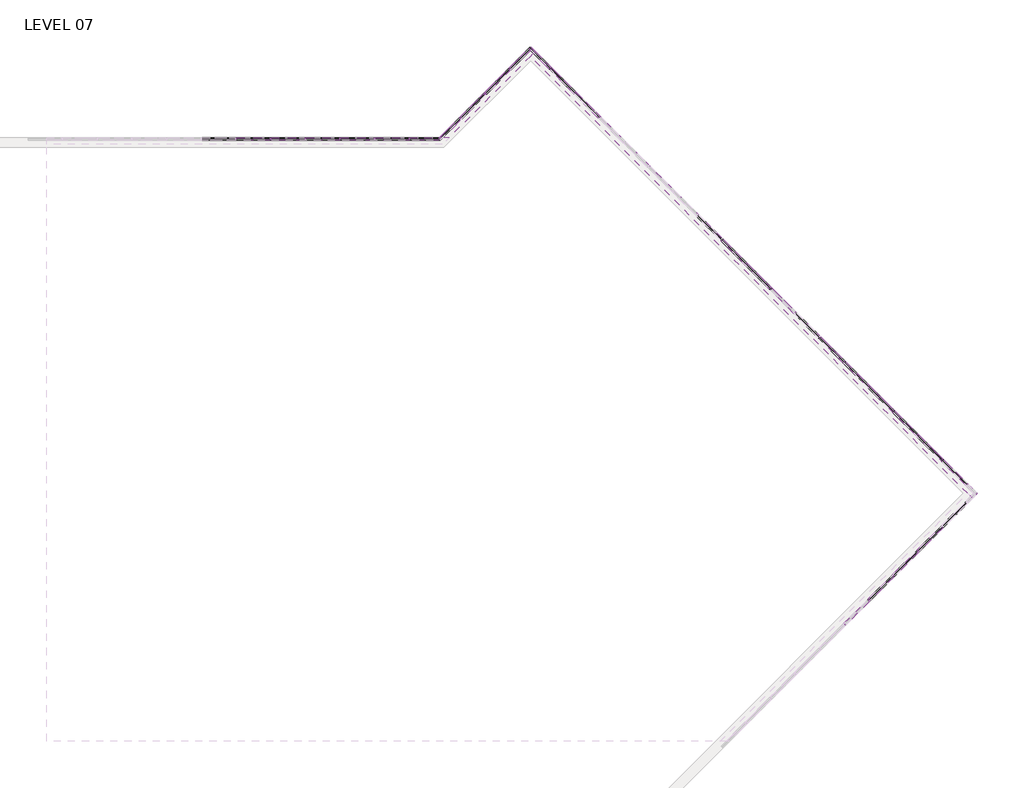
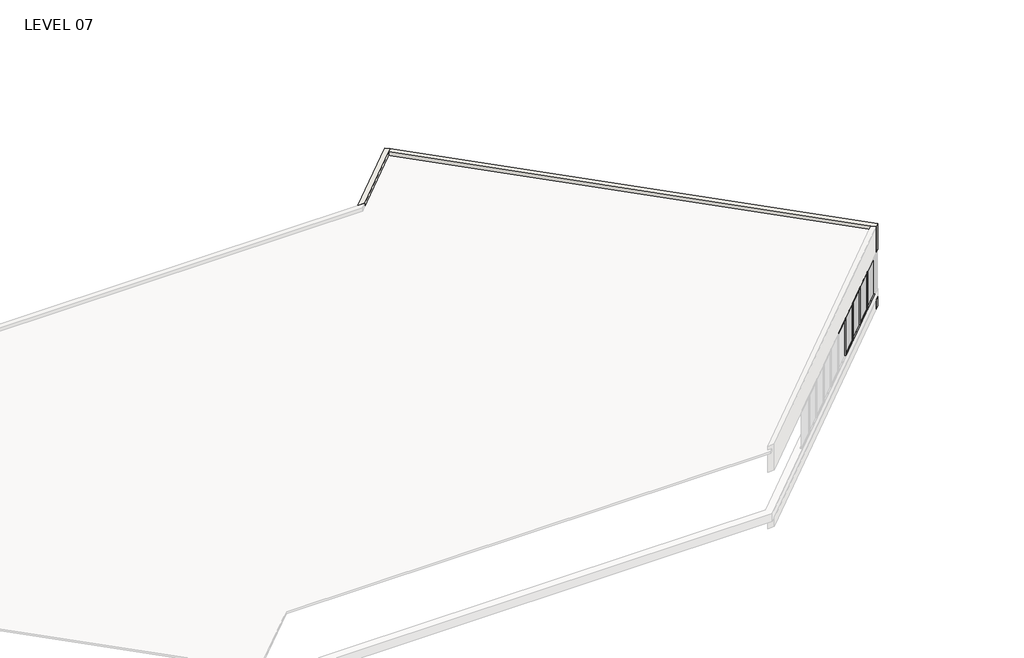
# One storey, part 16 of 18: 80 members, 24 plates, 4 walls.
"""IFC4 building model written with IfcOpenShell, lengths in millimetres."""

from ifc_helpers import new_model, si_unit, origin, place, context, project, spatial, faceted_brep, transform, mapped, element, save
from components import member_5247f267, member_e44af9ab, member_800970d4, member_c23f844a, member_45eb7f2e, member_ed9c17d6, member_53409b32, member_43bac76b, member_0b71a88d, plate_67294edd, plate_048e4634, plate_9c66726c, plate_e0fd5134, plate_62af1d3c, plate_903242d9, plate_0d1907f3, plate_15429445

model = new_model("IFC4")

# Units and contexts
model_context = context("Model", 3, world=origin())
ifc_project = project(units=[si_unit("LENGTHUNIT", "METRE", prefix="MILLI")], contexts=[model_context])

# Site, building, storey
site = spatial("IfcSite", under=ifc_project)
building = spatial("IfcBuilding", under=site)
storey = spatial("IfcBuildingStorey", under=building, Name="LEVEL 07", Elevation=23368.0)

# Members
placement = place(None, origin())
member_shape = member_5247f267(model_context)
element("IfcMember", 1, ObjectType="Rectangular Mullion : 2\" x 4.5\" rectangular", at=placement, inside=storey, context=model_context, shape_type="MappedRepresentation", body=[
    mapped(member_shape, transform((39706.55, 120127.9523049, 23368.0), x_axis=(0.0, 0.0, -1.0), y_axis=(0.0, 1.0, 0.0), z_axis=(1.0, 0.0, 0.0))),
])
element("IfcMember", 2, ObjectType="Rectangular Mullion : 2\" x 4.5\" rectangular", at=placement, inside=storey, context=model_context, shape_type="MappedRepresentation", body=[
    mapped(member_shape, transform((38182.55, 120127.9523049, 23368.0), x_axis=(0.0, 0.0, -1.0), y_axis=(0.0, 1.0, 0.0), z_axis=(1.0, 0.0, 0.0))),
])
element("IfcMember", 3, ObjectType="Rectangular Mullion : 2\" x 4.5\" rectangular", at=placement, inside=storey, context=model_context, shape_type="MappedRepresentation", body=[
    mapped(member_shape, transform((36658.55, 120127.9523049, 23368.0), x_axis=(0.0, 0.0, -1.0), y_axis=(0.0, 1.0, 0.0), z_axis=(1.0, 0.0, 0.0))),
])
element("IfcMember", 4, ObjectType="Rectangular Mullion : 2\" x 4.5\" rectangular", at=placement, inside=storey, context=model_context, shape_type="MappedRepresentation", body=[
    mapped(member_shape, transform((35134.55, 120127.9523049, 23368.0), x_axis=(0.0, 0.0, -1.0), y_axis=(0.0, 1.0, 0.0), z_axis=(1.0, 0.0, 0.0))),
])
element("IfcMember", 5, ObjectType="Rectangular Mullion : 2\" x 4.5\" rectangular", at=placement, inside=storey, context=model_context, shape_type="MappedRepresentation", body=[
    mapped(member_shape, transform((32086.55, 120127.9523049, 23368.0), x_axis=(0.0, 0.0, -1.0), y_axis=(0.0, 1.0, 0.0), z_axis=(1.0, 0.0, 0.0))),
])
element("IfcMember", 6, ObjectType="Rectangular Mullion : 2\" x 4.5\" rectangular", at=placement, inside=storey, context=model_context, shape_type="MappedRepresentation", body=[
    mapped(member_shape, transform((33610.55, 120127.9523049, 23368.0), x_axis=(0.0, 0.0, -1.0), y_axis=(0.0, 1.0, 0.0), z_axis=(1.0, 0.0, 0.0))),
])
element("IfcMember", 7, ObjectType="Rectangular Mullion : 2\" x 4.5\" rectangular", at=placement, inside=storey, context=model_context, shape_type="MappedRepresentation", body=[
    mapped(member_shape, transform((61030.3693146, 100944.5154839, 23368.0), x_axis=(0.0, 0.0, -1.0), y_axis=(0.7071067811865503, -0.7071067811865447, 0.0), z_axis=(-0.7071067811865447, -0.7071067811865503, 0.0))),
])
element("IfcMember", 8, ObjectType="Rectangular Mullion : 2\" x 4.5\" rectangular", at=placement, inside=storey, context=model_context, shape_type="MappedRepresentation", body=[
    mapped(member_shape, transform((59952.7459809, 99866.8921502, 23368.0), x_axis=(0.0, 0.0, -1.0), y_axis=(0.7071067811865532, -0.7071067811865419, 0.0), z_axis=(-0.7071067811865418, -0.7071067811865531, 0.0))),
])
element("IfcMember", 9, ObjectType="Rectangular Mullion : 2\" x 4.5\" rectangular", at=placement, inside=storey, context=model_context, shape_type="MappedRepresentation", body=[
    mapped(member_shape, transform((62108.0000491, 102022.1462184, 23368.0), x_axis=(0.0, 0.0, -1.0), y_axis=(0.7071067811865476, -0.7071067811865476, 0.0), z_axis=(-0.7071067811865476, -0.7071067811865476, 0.0))),
])
element("IfcMember", 10, ObjectType="Rectangular Mullion : 2\" x 4.5\" rectangular", at=placement, inside=storey, context=model_context, shape_type="MappedRepresentation", body=[
    mapped(member_shape, transform((63185.6307836, 103099.7769529, 23368.0), x_axis=(0.0, 0.0, -1.0), y_axis=(0.7071067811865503, -0.7071067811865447, 0.0), z_axis=(-0.7071067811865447, -0.7071067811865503, 0.0))),
])
element("IfcMember", 11, ObjectType="Rectangular Mullion : 2\" x 4.5\" rectangular", at=placement, inside=storey, context=model_context, shape_type="MappedRepresentation", body=[
    mapped(member_shape, transform((62072.0790246, 107097.5294159, 23368.0), x_axis=(0.0, 0.0, -1.0), y_axis=(0.7071067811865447, 0.7071067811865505, 0.0), z_axis=(0.7071067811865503, -0.7071067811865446, 0.0))),
])
element("IfcMember", 12, ObjectType="Rectangular Mullion : 2\" x 4.5\" rectangular", at=placement, inside=storey, context=model_context, shape_type="MappedRepresentation", body=[
    mapped(member_shape, transform((60994.4482901, 108175.1601505, 23368.0), x_axis=(0.0, 0.0, -1.0), y_axis=(0.7071067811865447, 0.7071067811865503, 0.0), z_axis=(0.7071067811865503, -0.7071067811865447, 0.0))),
])
element("IfcMember", 13, ObjectType="Rectangular Mullion : 2\" x 4.5\" rectangular", at=placement, inside=storey, context=model_context, shape_type="MappedRepresentation", body=[
    mapped(member_shape, transform((58839.2225556, 110330.385885, 23368.0), x_axis=(0.0, 0.0, -1.0), y_axis=(0.7071067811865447, 0.7071067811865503, 0.0), z_axis=(0.7071067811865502, -0.7071067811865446, 0.0))),
])
element("IfcMember", 14, ObjectType="Rectangular Mullion : 2\" x 4.5\" rectangular", at=placement, inside=storey, context=model_context, shape_type="MappedRepresentation", body=[
    mapped(member_shape, transform((57761.6275556, 111407.980885, 23368.0), x_axis=(0.0, 0.0, -1.0), y_axis=(0.7071067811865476, 0.7071067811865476, 0.0), z_axis=(0.7071067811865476, -0.7071067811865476, 0.0))),
])
element("IfcMember", 15, ObjectType="Rectangular Mullion : 2\" x 4.5\" rectangular", at=placement, inside=storey, context=model_context, shape_type="MappedRepresentation", body=[
    mapped(member_shape, transform((63149.7097592, 106019.8986814, 23368.0), x_axis=(0.0, 0.0, -1.0), y_axis=(0.7071067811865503, 0.7071067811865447, 0.0), z_axis=(0.7071067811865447, -0.7071067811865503, 0.0))),
])
element("IfcMember", 16, ObjectType="Rectangular Mullion : 2\" x 4.5\" rectangular", at=placement, inside=storey, context=model_context, shape_type="MappedRepresentation", body=[
    mapped(member_shape, transform((59916.8354228, 109252.7730177, 23368.0), x_axis=(0.0, 0.0, -1.0), y_axis=(0.7071067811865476, 0.7071067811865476, 0.0), z_axis=(0.7071067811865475, -0.7071067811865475, 0.0))),
])
element("IfcMember", 17, ObjectType="Rectangular Mullion : 2\" x 4.5\" rectangular", at=placement, inside=storey, context=model_context, shape_type="MappedRepresentation", body=[
    mapped(member_shape, transform((47009.3767128, 122160.2317277, 23368.0), x_axis=(0.0, 0.0, -1.0), y_axis=(0.7071067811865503, 0.7071067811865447, 0.0), z_axis=(0.7071067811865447, -0.7071067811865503, 0.0))),
])
element("IfcMember", 18, ObjectType="Rectangular Mullion : 2\" x 4.5\" rectangular", at=placement, inside=storey, context=model_context, shape_type="MappedRepresentation", body=[
    mapped(member_shape, transform((43059.572889, 122097.2813296, 23368.0), x_axis=(0.0, 0.0, -1.0), y_axis=(-0.7071067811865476, 0.7071067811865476, 0.0), z_axis=(0.7071067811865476, 0.7071067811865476, 0.0))),
])
element("IfcMember", 19, ObjectType="Rectangular Mullion : 2\" x 4.5\" rectangular", at=placement, inside=storey, context=model_context, shape_type="MappedRepresentation", body=[
    mapped(member_shape, transform((44137.2036235, 123174.9120641, 23368.0), x_axis=(0.0, 0.0, -1.0), y_axis=(-0.7071067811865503, 0.7071067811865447, 0.0), z_axis=(0.7071067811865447, 0.7071067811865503, 0.0))),
])
element("IfcMember", 20, ObjectType="Rectangular Mullion : 2\" x 4.5\" rectangular", at=placement, inside=storey, context=model_context, shape_type="MappedRepresentation", body=[
    mapped(member_shape, transform((38233.35, 120127.9523049, 25958.8), x_axis=(0.0, 0.0, 1.0), y_axis=(0.0, 1.0, 0.0), z_axis=(-1.0, 0.0, 0.0))),
])
element("IfcMember", 21, ObjectType="Rectangular Mullion : 2\" x 4.5\" rectangular", at=placement, inside=storey, context=model_context, shape_type="MappedRepresentation", body=[
    mapped(member_shape, transform((36709.35, 120127.9523049, 25958.8), x_axis=(0.0, 0.0, 1.0), y_axis=(0.0, 1.0, 0.0), z_axis=(-1.0, 0.0, 0.0))),
])
element("IfcMember", 22, ObjectType="Rectangular Mullion : 2\" x 4.5\" rectangular", at=placement, inside=storey, context=model_context, shape_type="MappedRepresentation", body=[
    mapped(member_shape, transform((35185.35, 120127.9523049, 25958.8), x_axis=(0.0, 0.0, 1.0), y_axis=(0.0, 1.0, 0.0), z_axis=(-1.0, 0.0, 0.0))),
])
element("IfcMember", 23, ObjectType="Rectangular Mullion : 2\" x 4.5\" rectangular", at=placement, inside=storey, context=model_context, shape_type="MappedRepresentation", body=[
    mapped(member_shape, transform((32137.35, 120127.9523049, 25958.8), x_axis=(0.0, 0.0, 1.0), y_axis=(0.0, 1.0, 0.0), z_axis=(-1.0, 0.0, 0.0))),
])
element("IfcMember", 24, ObjectType="Rectangular Mullion : 2\" x 4.5\" rectangular", at=placement, inside=storey, context=model_context, shape_type="MappedRepresentation", body=[
    mapped(member_shape, transform((33661.35, 120127.9523049, 25958.8), x_axis=(0.0, 0.0, 1.0), y_axis=(0.0, 1.0, 0.0), z_axis=(-1.0, 0.0, 0.0))),
])
element("IfcMember", 25, ObjectType="Rectangular Mullion : 2\" x 4.5\" rectangular", at=placement, inside=storey, context=model_context, shape_type="MappedRepresentation", body=[
    mapped(member_shape, transform((60994.4482901, 100908.5944594, 25958.8), x_axis=(0.0, 0.0, 1.0), y_axis=(0.7071067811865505, -0.7071067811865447, 0.0), z_axis=(0.7071067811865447, 0.7071067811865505, 0.0))),
])
element("IfcMember", 26, ObjectType="Rectangular Mullion : 2\" x 4.5\" rectangular", at=placement, inside=storey, context=model_context, shape_type="MappedRepresentation", body=[
    mapped(member_shape, transform((59916.8249564, 99830.9711257, 25958.8), x_axis=(0.0, 0.0, 1.0), y_axis=(0.7071067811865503, -0.7071067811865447, 0.0), z_axis=(0.7071067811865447, 0.7071067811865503, 0.0))),
])
element("IfcMember", 27, ObjectType="Rectangular Mullion : 2\" x 4.5\" rectangular", at=placement, inside=storey, context=model_context, shape_type="MappedRepresentation", body=[
    mapped(member_shape, transform((62072.0790246, 101986.2251939, 25958.8), x_axis=(0.0, 0.0, 1.0), y_axis=(0.7071067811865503, -0.7071067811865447, 0.0), z_axis=(0.7071067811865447, 0.7071067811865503, 0.0))),
])
element("IfcMember", 28, ObjectType="Rectangular Mullion : 2\" x 4.5\" rectangular", at=placement, inside=storey, context=model_context, shape_type="MappedRepresentation", body=[
    mapped(member_shape, transform((63149.7097592, 103063.8559285, 25958.8), x_axis=(0.0, 0.0, 1.0), y_axis=(0.7071067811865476, -0.7071067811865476, 0.0), z_axis=(0.7071067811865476, 0.7071067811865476, 0.0))),
])
element("IfcMember", 29, ObjectType="Rectangular Mullion : 2\" x 4.5\" rectangular", at=placement, inside=storey, context=model_context, shape_type="MappedRepresentation", body=[
    mapped(member_shape, transform((62108.0000491, 107061.6083914, 25958.8), x_axis=(0.0, 0.0, 1.0), y_axis=(0.7071067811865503, 0.7071067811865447, 0.0), z_axis=(-0.7071067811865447, 0.7071067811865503, 0.0))),
])
element("IfcMember", 30, ObjectType="Rectangular Mullion : 2\" x 4.5\" rectangular", at=placement, inside=storey, context=model_context, shape_type="MappedRepresentation", body=[
    mapped(member_shape, transform((61030.3693146, 108139.239126, 25958.8), x_axis=(0.0, 0.0, 1.0), y_axis=(0.7071067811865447, 0.7071067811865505, 0.0), z_axis=(-0.7071067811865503, 0.7071067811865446, 0.0))),
])
element("IfcMember", 31, ObjectType="Rectangular Mullion : 2\" x 4.5\" rectangular", at=placement, inside=storey, context=model_context, shape_type="MappedRepresentation", body=[
    mapped(member_shape, transform((58875.1435801, 110294.4648605, 25958.8), x_axis=(0.0, 0.0, 1.0), y_axis=(0.7071067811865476, 0.7071067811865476, 0.0), z_axis=(-0.7071067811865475, 0.7071067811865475, 0.0))),
])
element("IfcMember", 32, ObjectType="Rectangular Mullion : 2\" x 4.5\" rectangular", at=placement, inside=storey, context=model_context, shape_type="MappedRepresentation", body=[
    mapped(member_shape, transform((57797.5485801, 111372.0598605, 25958.8), x_axis=(0.0, 0.0, 1.0), y_axis=(0.7071067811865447, 0.7071067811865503, 0.0), z_axis=(-0.7071067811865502, 0.7071067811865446, 0.0))),
])
element("IfcMember", 33, ObjectType="Rectangular Mullion : 2\" x 4.5\" rectangular", at=placement, inside=storey, context=model_context, shape_type="MappedRepresentation", body=[
    mapped(member_shape, transform((55642.3585801, 113527.2498605, 25958.8), x_axis=(0.0, 0.0, 1.0), y_axis=(0.7071067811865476, 0.7071067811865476, 0.0), z_axis=(-0.7071067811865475, 0.7071067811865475, 0.0))),
])
element("IfcMember", 34, ObjectType="Rectangular Mullion : 2\" x 4.5\" rectangular", at=placement, inside=storey, context=model_context, shape_type="MappedRepresentation", body=[
    mapped(member_shape, transform((63185.6307836, 105983.9776569, 25958.8), x_axis=(0.0, 0.0, 1.0), y_axis=(0.7071067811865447, 0.7071067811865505, 0.0), z_axis=(-0.7071067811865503, 0.7071067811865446, 0.0))),
])
element("IfcMember", 35, ObjectType="Rectangular Mullion : 2\" x 4.5\" rectangular", at=placement, inside=storey, context=model_context, shape_type="MappedRepresentation", body=[
    mapped(member_shape, transform((59952.7564473, 109216.8519932, 25958.8), x_axis=(0.0, 0.0, 1.0), y_axis=(0.7071067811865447, 0.7071067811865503, 0.0), z_axis=(-0.7071067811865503, 0.7071067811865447, 0.0))),
])
element("IfcMember", 36, ObjectType="Rectangular Mullion : 2\" x 4.5\" rectangular", at=placement, inside=storey, context=model_context, shape_type="MappedRepresentation", body=[
    mapped(member_shape, transform((47045.2977373, 122124.3107033, 25958.8), x_axis=(0.0, 0.0, 1.0), y_axis=(0.7071067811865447, 0.7071067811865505, 0.0), z_axis=(-0.7071067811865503, 0.7071067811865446, 0.0))),
])
element("IfcMember", 37, ObjectType="Rectangular Mullion : 2\" x 4.5\" rectangular", at=placement, inside=storey, context=model_context, shape_type="MappedRepresentation", body=[
    mapped(member_shape, transform((45967.6670028, 123201.9414378, 25958.8), x_axis=(0.0, 0.0, 1.0), y_axis=(0.7071067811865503, 0.7071067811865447, 0.0), z_axis=(-0.7071067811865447, 0.7071067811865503, 0.0))),
])
element("IfcMember", 38, ObjectType="Rectangular Mullion : 2\" x 4.5\" rectangular", at=placement, inside=storey, context=model_context, shape_type="MappedRepresentation", body=[
    mapped(member_shape, transform((43095.4939135, 122133.202354, 25958.8), x_axis=(0.0, 0.0, 1.0), y_axis=(-0.7071067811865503, 0.7071067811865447, 0.0), z_axis=(-0.7071067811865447, -0.7071067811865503, 0.0))),
])
element("IfcMember", 39, ObjectType="Rectangular Mullion : 2\" x 4.5\" rectangular", at=placement, inside=storey, context=model_context, shape_type="MappedRepresentation", body=[
    mapped(member_shape, transform((42017.863179, 121055.5716195, 25958.8), x_axis=(0.0, 0.0, 1.0), y_axis=(-0.7071067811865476, 0.7071067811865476, 0.0), z_axis=(-0.7071067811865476, -0.7071067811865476, 0.0))),
])
member_2_shape = member_e44af9ab(model_context)
element("IfcMember", 40, ObjectType="Rectangular Mullion : 2\" x 4.5\" rectangular", at=placement, inside=storey, context=model_context, shape_type="MappedRepresentation", body=[
    mapped(member_2_shape, transform((39731.95, 120127.9523049, 23368.0), x_axis=(-1.0, 0.0, 0.0), y_axis=(0.0, 1.0, 0.0), z_axis=(0.0, 0.0, -1.0))),
])
element("IfcMember", 41, ObjectType="Rectangular Mullion : 2\" x 4.5\" rectangular", at=placement, inside=storey, context=model_context, shape_type="MappedRepresentation", body=[
    mapped(member_2_shape, transform((38207.95, 120127.9523049, 23368.0), x_axis=(-1.0, 0.0, 0.0), y_axis=(0.0, 1.0, 0.0), z_axis=(0.0, 0.0, -1.0))),
])
element("IfcMember", 42, ObjectType="Rectangular Mullion : 2\" x 4.5\" rectangular", at=placement, inside=storey, context=model_context, shape_type="MappedRepresentation", body=[
    mapped(member_2_shape, transform((36683.95, 120127.9523049, 23368.0), x_axis=(-1.0, 0.0, 0.0), y_axis=(0.0, 1.0, 0.0), z_axis=(0.0, 0.0, -1.0))),
])
element("IfcMember", 43, ObjectType="Rectangular Mullion : 2\" x 4.5\" rectangular", at=placement, inside=storey, context=model_context, shape_type="MappedRepresentation", body=[
    mapped(member_2_shape, transform((35159.95, 120127.9523049, 23368.0), x_axis=(-1.0, 0.0, 0.0), y_axis=(0.0, 1.0, 0.0), z_axis=(0.0, 0.0, -1.0))),
])
element("IfcMember", 44, ObjectType="Rectangular Mullion : 2\" x 4.5\" rectangular", at=placement, inside=storey, context=model_context, shape_type="MappedRepresentation", body=[
    mapped(member_2_shape, transform((32111.95, 120127.9523049, 23368.0), x_axis=(-1.0, 0.0, 0.0), y_axis=(0.0, 1.0, 0.0), z_axis=(0.0, 0.0, -1.0))),
])
element("IfcMember", 45, ObjectType="Rectangular Mullion : 2\" x 4.5\" rectangular", at=placement, inside=storey, context=model_context, shape_type="MappedRepresentation", body=[
    mapped(member_2_shape, transform((33635.95, 120127.9523049, 23368.0), x_axis=(-1.0, 0.0, 0.0), y_axis=(0.0, 1.0, 0.0), z_axis=(0.0, 0.0, -1.0))),
])
element("IfcMember", 46, ObjectType="Rectangular Mullion : 2\" x 4.5\" rectangular", at=placement, inside=storey, context=model_context, shape_type="MappedRepresentation", body=[
    mapped(member_2_shape, transform((61012.4088023, 100926.5549716, 23368.0), x_axis=(0.7071067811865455, 0.7071067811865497, 0.0), y_axis=(0.7071067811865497, -0.7071067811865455, 0.0), z_axis=(0.0, 0.0, -1.0))),
])
element("IfcMember", 47, ObjectType="Rectangular Mullion : 2\" x 4.5\" rectangular", at=placement, inside=storey, context=model_context, shape_type="MappedRepresentation", body=[
    mapped(member_2_shape, transform((59934.7854687, 99848.931638, 23368.0), x_axis=(0.7071067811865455, 0.7071067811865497, 0.0), y_axis=(0.7071067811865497, -0.7071067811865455, 0.0), z_axis=(0.0, 0.0, -1.0))),
])
element("IfcMember", 48, ObjectType="Rectangular Mullion : 2\" x 4.5\" rectangular", at=placement, inside=storey, context=model_context, shape_type="MappedRepresentation", body=[
    mapped(member_2_shape, transform((62090.0395369, 102004.1857062, 23368.0), x_axis=(0.7071067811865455, 0.7071067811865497, 0.0), y_axis=(0.7071067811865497, -0.7071067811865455, 0.0), z_axis=(0.0, 0.0, -1.0))),
])
element("IfcMember", 49, ObjectType="Rectangular Mullion : 2\" x 4.5\" rectangular", at=placement, inside=storey, context=model_context, shape_type="MappedRepresentation", body=[
    mapped(member_2_shape, transform((63167.6702714, 103081.8164407, 23368.0), x_axis=(0.7071067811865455, 0.7071067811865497, 0.0), y_axis=(0.7071067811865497, -0.7071067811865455, 0.0), z_axis=(0.0, 0.0, -1.0))),
])
element("IfcMember", 50, ObjectType="Rectangular Mullion : 2\" x 4.5\" rectangular", at=placement, inside=storey, context=model_context, shape_type="MappedRepresentation", body=[
    mapped(member_2_shape, transform((62090.0395369, 107079.5689037, 23368.0), x_axis=(-0.7071067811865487, 0.7071067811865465, 0.0), y_axis=(0.7071067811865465, 0.7071067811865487, 0.0), z_axis=(0.0, 0.0, -1.0))),
])
element("IfcMember", 51, ObjectType="Rectangular Mullion : 2\" x 4.5\" rectangular", at=placement, inside=storey, context=model_context, shape_type="MappedRepresentation", body=[
    mapped(member_2_shape, transform((61012.4088023, 108157.1996382, 23368.0), x_axis=(-0.7071067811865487, 0.7071067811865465, 0.0), y_axis=(0.7071067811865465, 0.7071067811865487, 0.0), z_axis=(0.0, 0.0, -1.0))),
])
element("IfcMember", 52, ObjectType="Rectangular Mullion : 2\" x 4.5\" rectangular", at=placement, inside=storey, context=model_context, shape_type="MappedRepresentation", body=[
    mapped(member_2_shape, transform((58857.1830678, 110312.4253727, 23368.0), x_axis=(-0.7071067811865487, 0.7071067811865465, 0.0), y_axis=(0.7071067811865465, 0.7071067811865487, 0.0), z_axis=(0.0, 0.0, -1.0))),
])
element("IfcMember", 53, ObjectType="Rectangular Mullion : 2\" x 4.5\" rectangular", at=placement, inside=storey, context=model_context, shape_type="MappedRepresentation", body=[
    mapped(member_2_shape, transform((57779.5880678, 111390.0203727, 23368.0), x_axis=(-0.7071067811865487, 0.7071067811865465, 0.0), y_axis=(0.7071067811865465, 0.7071067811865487, 0.0), z_axis=(0.0, 0.0, -1.0))),
])
element("IfcMember", 54, ObjectType="Rectangular Mullion : 2\" x 4.5\" rectangular", at=placement, inside=storey, context=model_context, shape_type="MappedRepresentation", body=[
    mapped(member_2_shape, transform((55624.3980678, 113545.2103727, 23368.0), x_axis=(-0.7071067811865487, 0.7071067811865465, 0.0), y_axis=(0.7071067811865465, 0.7071067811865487, 0.0), z_axis=(0.0, 0.0, -1.0))),
])
element("IfcMember", 55, ObjectType="Rectangular Mullion : 2\" x 4.5\" rectangular", at=placement, inside=storey, context=model_context, shape_type="MappedRepresentation", body=[
    mapped(member_2_shape, transform((53475.159658, 115694.4487825, 23368.0), x_axis=(-0.7071067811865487, 0.7071067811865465, 0.0), y_axis=(0.7071067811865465, 0.7071067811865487, 0.0), z_axis=(0.0, 0.0, -1.0))),
])
element("IfcMember", 56, ObjectType="Rectangular Mullion : 2\" x 4.5\" rectangular", at=placement, inside=storey, context=model_context, shape_type="MappedRepresentation", body=[
    mapped(member_2_shape, transform((63167.6702714, 106001.9381692, 23368.0), x_axis=(-0.7071067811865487, 0.7071067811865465, 0.0), y_axis=(0.7071067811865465, 0.7071067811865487, 0.0), z_axis=(0.0, 0.0, -1.0))),
])
element("IfcMember", 57, ObjectType="Rectangular Mullion : 2\" x 4.5\" rectangular", at=placement, inside=storey, context=model_context, shape_type="MappedRepresentation", body=[
    mapped(member_2_shape, transform((59934.7959351, 109234.8125055, 23368.0), x_axis=(-0.7071067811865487, 0.7071067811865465, 0.0), y_axis=(0.7071067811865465, 0.7071067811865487, 0.0), z_axis=(0.0, 0.0, -1.0))),
])
element("IfcMember", 58, ObjectType="Rectangular Mullion : 2\" x 4.5\" rectangular", at=placement, inside=storey, context=model_context, shape_type="MappedRepresentation", body=[
    mapped(member_2_shape, transform((54549.7788629, 114619.8295776, 23368.0), x_axis=(-0.7071067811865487, 0.7071067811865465, 0.0), y_axis=(0.7071067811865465, 0.7071067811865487, 0.0), z_axis=(0.0, 0.0, -1.0))),
])
element("IfcMember", 59, ObjectType="Rectangular Mullion : 2\" x 4.5\" rectangular", at=placement, inside=storey, context=model_context, shape_type="MappedRepresentation", body=[
    mapped(member_2_shape, transform((47027.3372251, 122142.2712155, 23368.0), x_axis=(-0.7071067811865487, 0.7071067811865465, 0.0), y_axis=(0.7071067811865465, 0.7071067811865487, 0.0), z_axis=(0.0, 0.0, -1.0))),
])
element("IfcMember", 60, ObjectType="Rectangular Mullion : 2\" x 4.5\" rectangular", at=placement, inside=storey, context=model_context, shape_type="MappedRepresentation", body=[
    mapped(member_2_shape, transform((45949.7064905, 123219.90195, 23368.0), x_axis=(-0.7071067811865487, 0.7071067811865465, 0.0), y_axis=(0.7071067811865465, 0.7071067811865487, 0.0), z_axis=(0.0, 0.0, -1.0))),
])
element("IfcMember", 61, ObjectType="Rectangular Mullion : 2\" x 4.5\" rectangular", at=placement, inside=storey, context=model_context, shape_type="MappedRepresentation", body=[
    mapped(member_2_shape, transform((43077.5334012, 122115.2418418, 23368.0), x_axis=(-0.7071067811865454, -0.7071067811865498, 0.0), y_axis=(-0.7071067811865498, 0.7071067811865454, 0.0), z_axis=(0.0, 0.0, -1.0))),
])
element("IfcMember", 62, ObjectType="Rectangular Mullion : 2\" x 4.5\" rectangular", at=placement, inside=storey, context=model_context, shape_type="MappedRepresentation", body=[
    mapped(member_2_shape, transform((41999.9026667, 121037.6111073, 23368.0), x_axis=(-0.7071067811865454, -0.7071067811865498, 0.0), y_axis=(-0.7071067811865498, 0.7071067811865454, 0.0), z_axis=(0.0, 0.0, -1.0))),
])
element("IfcMember", 63, ObjectType="Rectangular Mullion : 2\" x 4.5\" rectangular", at=placement, inside=storey, context=model_context, shape_type="MappedRepresentation", body=[
    mapped(member_2_shape, transform((44155.1641358, 123192.8725763, 23368.0), x_axis=(-0.7071067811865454, -0.7071067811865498, 0.0), y_axis=(-0.7071067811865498, 0.7071067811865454, 0.0), z_axis=(0.0, 0.0, -1.0))),
])
member_3_shape = member_800970d4(model_context)
element("IfcMember", 64, ObjectType="Rectangular Mullion : 2\" x 4.5\" rectangular", at=placement, inside=storey, context=model_context, shape_type="MappedRepresentation", body=[
    mapped(member_3_shape, transform((45065.95, 124103.6584406, 23368.0), x_axis=(-0.7071067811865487, 0.7071067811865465, 0.0), y_axis=(0.7071067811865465, 0.7071067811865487, 0.0), z_axis=(0.0, 0.0, -1.0))),
])
element("IfcMember", 65, ObjectType="Rectangular Mullion : 2\" x 4.5\" rectangular", at=placement, inside=storey, context=model_context, shape_type="MappedRepresentation", body=[
    mapped(member_3_shape, transform((41090.2438644, 120127.9523049, 23368.0), x_axis=(-0.7071067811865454, -0.7071067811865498, 0.0), y_axis=(-0.7071067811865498, 0.7071067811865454, 0.0), z_axis=(0.0, 0.0, -1.0))),
])
element("IfcMember", 66, ObjectType="Rectangular Mullion : 2\" x 4.5\" rectangular", at=placement, inside=storey, context=model_context, shape_type="MappedRepresentation", body=[
    mapped(member_3_shape, transform((41090.2438644, 120127.9523049, 25958.8), x_axis=(1.0, 0.0, 0.0), y_axis=(0.0, 1.0, 0.0), z_axis=(0.0, 0.0, 1.0))),
])
element("IfcMember", 67, ObjectType="Rectangular Mullion : 2\" x 4.5\" rectangular", at=placement, inside=storey, context=model_context, shape_type="MappedRepresentation", body=[
    mapped(member_3_shape, transform((45065.95, 124103.6584406, 25958.8), x_axis=(0.7071067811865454, 0.7071067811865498, 0.0), y_axis=(-0.7071067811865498, 0.7071067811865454, 0.0), z_axis=(0.0, 0.0, 1.0))),
])
member_4_shape = member_c23f844a(model_context)
element("IfcMember", 68, ObjectType="Rectangular Mullion : 2\" x 4.5\" rectangular", at=placement, inside=storey, context=model_context, shape_type="MappedRepresentation", body=[
    mapped(member_4_shape, transform((53457.1991458, 115712.4092948, 23368.0), x_axis=(0.0, 0.0, -1.0), y_axis=(0.7071067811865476, 0.7071067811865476, 0.0), z_axis=(0.7071067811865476, -0.7071067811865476, 0.0))),
])
member_5_shape = member_45eb7f2e(model_context)
element("IfcMember", 69, ObjectType="Rectangular Mullion : 2\" x 4.5\" rectangular", at=placement, inside=storey, context=model_context, shape_type="MappedRepresentation", body=[
    mapped(member_5_shape, transform((39757.35, 120127.9523049, 25958.8), x_axis=(0.0, 0.0, 1.0), y_axis=(0.0, 1.0, 0.0), z_axis=(-1.0, 0.0, 0.0))),
])
element("IfcMember", 70, ObjectType="Rectangular Mullion : 2\" x 4.5\" rectangular", at=placement, inside=storey, context=model_context, shape_type="MappedRepresentation", body=[
    mapped(member_5_shape, transform((41039.4438644, 120127.9523049, 23368.0), x_axis=(0.0, 0.0, -1.0), y_axis=(0.0, 1.0, 0.0), z_axis=(1.0, 0.0, 0.0))),
])
member_6_shape = member_ed9c17d6(model_context)
element("IfcMember", 71, ObjectType="Rectangular Mullion : 2\" x 4.5\" rectangular", at=placement, inside=storey, context=model_context, shape_type="MappedRepresentation", body=[
    mapped(member_6_shape, transform((53493.1201703, 115676.4882703, 25958.8), x_axis=(0.0, 0.0, 1.0), y_axis=(0.7071067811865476, 0.7071067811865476, 0.0), z_axis=(-0.7071067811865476, 0.7071067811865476, 0.0))),
])
element("IfcMember", 72, ObjectType="Rectangular Mullion : 2\" x 4.5\" rectangular", at=placement, inside=storey, context=model_context, shape_type="MappedRepresentation", body=[
    mapped(member_6_shape, transform((54567.7393752, 114601.8690654, 25958.8), x_axis=(0.0, 0.0, 1.0), y_axis=(0.7071067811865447, 0.7071067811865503, 0.0), z_axis=(-0.7071067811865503, 0.7071067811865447, 0.0))),
])
element("IfcMember", 73, ObjectType="Rectangular Mullion : 2\" x 4.5\" rectangular", at=placement, inside=storey, context=model_context, shape_type="MappedRepresentation", body=[
    mapped(member_6_shape, transform((55606.4375556, 113563.170885, 23368.0), x_axis=(0.0, 0.0, -1.0), y_axis=(0.7071067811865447, 0.7071067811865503, 0.0), z_axis=(0.7071067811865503, -0.7071067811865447, 0.0))),
])
element("IfcMember", 74, ObjectType="Rectangular Mullion : 2\" x 4.5\" rectangular", at=placement, inside=storey, context=model_context, shape_type="MappedRepresentation", body=[
    mapped(member_6_shape, transform((54531.8183507, 114637.7900899, 23368.0), x_axis=(0.0, 0.0, -1.0), y_axis=(0.7071067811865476, 0.7071067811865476, 0.0), z_axis=(0.7071067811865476, -0.7071067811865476, 0.0))),
])
member_7_shape = member_53409b32(model_context)
element("IfcMember", 75, ObjectType="Rectangular Mullion : 2\" x 4.5\" rectangular", at=placement, inside=storey, context=model_context, shape_type="MappedRepresentation", body=[
    mapped(member_7_shape, transform((45101.8710245, 124067.7374161, 25958.8), x_axis=(0.0, 0.0, 1.0), y_axis=(0.7071067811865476, 0.7071067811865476, 0.0), z_axis=(-0.7071067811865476, 0.7071067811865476, 0.0))),
])
element("IfcMember", 76, ObjectType="Rectangular Mullion : 2\" x 4.5\" rectangular", at=placement, inside=storey, context=model_context, shape_type="MappedRepresentation", body=[
    mapped(member_7_shape, transform((45931.7459783, 123237.8624623, 23368.0), x_axis=(0.0, 0.0, -1.0), y_axis=(0.7071067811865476, 0.7071067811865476, 0.0), z_axis=(0.7071067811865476, -0.7071067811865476, 0.0))),
])
member_8_shape = member_43bac76b(model_context)
element("IfcMember", 77, ObjectType="Rectangular Mullion : 2\" x 4.5\" rectangular", at=placement, inside=storey, context=model_context, shape_type="MappedRepresentation", body=[
    mapped(member_8_shape, transform((41126.1648889, 120163.8733294, 25958.8), x_axis=(0.0, 0.0, 1.0), y_axis=(-0.7071067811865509, 0.7071067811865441, 0.0), z_axis=(-0.7071067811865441, -0.7071067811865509, 0.0))),
])
element("IfcMember", 78, ObjectType="Rectangular Mullion : 2\" x 4.5\" rectangular", at=placement, inside=storey, context=model_context, shape_type="MappedRepresentation", body=[
    mapped(member_8_shape, transform((41981.9421545, 121019.650595, 23368.0), x_axis=(0.0, 0.0, -1.0), y_axis=(-0.7071067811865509, 0.7071067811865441, 0.0), z_axis=(0.7071067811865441, 0.7071067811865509, 0.0))),
])
member_9_shape = member_0b71a88d(model_context)
element("IfcMember", 79, ObjectType="Rectangular Mullion : 2\" x 4.5\" rectangular", at=placement, inside=storey, context=model_context, shape_type="MappedRepresentation", body=[
    mapped(member_9_shape, transform((45030.0289755, 124067.7374161, 23368.0), x_axis=(0.0, 0.0, -1.0), y_axis=(-0.7071067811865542, 0.7071067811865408, 0.0), z_axis=(0.7071067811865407, 0.7071067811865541, 0.0))),
])
element("IfcMember", 80, ObjectType="Rectangular Mullion : 2\" x 4.5\" rectangular", at=placement, inside=storey, context=model_context, shape_type="MappedRepresentation", body=[
    mapped(member_9_shape, transform((44173.124648, 123210.8330886, 25958.8), x_axis=(0.0, 0.0, 1.0), y_axis=(-0.7071067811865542, 0.7071067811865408, 0.0), z_axis=(-0.7071067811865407, -0.7071067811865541, 0.0))),
])

# Plates
plate_shape = plate_67294edd(model_context)
element("IfcPlate", 81, ObjectType="System Panel : 1/4\" Glass", at=placement, inside=storey, context=model_context, shape_type="MappedRepresentation", body=[
    mapped(plate_shape, transform((38969.95, 120127.9523049, 23418.8), x_axis=(-1.0, 0.0, 0.0), y_axis=(0.0, -1.0, 0.0), z_axis=(0.0, 0.0, 1.0))),
])
element("IfcPlate", 82, ObjectType="System Panel : 1/4\" Glass", at=placement, inside=storey, context=model_context, shape_type="MappedRepresentation", body=[
    mapped(plate_shape, transform((37445.95, 120127.9523049, 23418.8), x_axis=(-1.0, 0.0, 0.0), y_axis=(0.0, -1.0, 0.0), z_axis=(0.0, 0.0, 1.0))),
])
element("IfcPlate", 83, ObjectType="System Panel : 1/4\" Glass", at=placement, inside=storey, context=model_context, shape_type="MappedRepresentation", body=[
    mapped(plate_shape, transform((35921.95, 120127.9523049, 23418.8), x_axis=(-1.0, 0.0, 0.0), y_axis=(0.0, -1.0, 0.0), z_axis=(0.0, 0.0, 1.0))),
])
element("IfcPlate", 84, ObjectType="System Panel : 1/4\" Glass", at=placement, inside=storey, context=model_context, shape_type="MappedRepresentation", body=[
    mapped(plate_shape, transform((34397.95, 120127.9523049, 23418.8), x_axis=(-1.0, 0.0, 0.0), y_axis=(0.0, -1.0, 0.0), z_axis=(0.0, 0.0, 1.0))),
])
element("IfcPlate", 85, ObjectType="System Panel : 1/4\" Glass", at=placement, inside=storey, context=model_context, shape_type="MappedRepresentation", body=[
    mapped(plate_shape, transform((32873.95, 120127.9523049, 23418.8), x_axis=(-1.0, 0.0, 0.0), y_axis=(0.0, -1.0, 0.0), z_axis=(0.0, 0.0, 1.0))),
])
element("IfcPlate", 86, ObjectType="System Panel : 1/4\" Glass", at=placement, inside=storey, context=model_context, shape_type="MappedRepresentation", body=[
    mapped(plate_shape, transform((61551.2241696, 101465.3703389, 23418.8), x_axis=(0.7071067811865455, 0.7071067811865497, 0.0), y_axis=(-0.7071067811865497, 0.7071067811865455, 0.0), z_axis=(0.0, 0.0, 1.0))),
])
element("IfcPlate", 87, ObjectType="System Panel : 1/4\" Glass", at=placement, inside=storey, context=model_context, shape_type="MappedRepresentation", body=[
    mapped(plate_shape, transform((62628.8549041, 102543.0010734, 23418.8), x_axis=(0.7071067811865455, 0.7071067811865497, 0.0), y_axis=(-0.7071067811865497, 0.7071067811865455, 0.0), z_axis=(0.0, 0.0, 1.0))),
])
element("IfcPlate", 88, ObjectType="System Panel : 1/4\" Glass", at=placement, inside=storey, context=model_context, shape_type="MappedRepresentation", body=[
    mapped(plate_shape, transform((63706.4856387, 103620.631808, 23418.8), x_axis=(0.7071067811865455, 0.7071067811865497, 0.0), y_axis=(-0.7071067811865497, 0.7071067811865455, 0.0), z_axis=(0.0, 0.0, 1.0))),
])
element("IfcPlate", 89, ObjectType="System Panel : 1/4\" Glass", at=placement, inside=storey, context=model_context, shape_type="MappedRepresentation", body=[
    mapped(plate_shape, transform((61551.2241696, 107618.3842709, 23418.8), x_axis=(-0.7071067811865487, 0.7071067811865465, 0.0), y_axis=(-0.7071067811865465, -0.7071067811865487, 0.0), z_axis=(0.0, 0.0, 1.0))),
])
element("IfcPlate", 90, ObjectType="System Panel : 1/4\" Glass", at=placement, inside=storey, context=model_context, shape_type="MappedRepresentation", body=[
    mapped(plate_shape, transform((62628.8549041, 106540.7535364, 23418.8), x_axis=(-0.7071067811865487, 0.7071067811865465, 0.0), y_axis=(-0.7071067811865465, -0.7071067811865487, 0.0), z_axis=(0.0, 0.0, 1.0))),
])
element("IfcPlate", 91, ObjectType="System Panel : 1/4\" Glass", at=placement, inside=storey, context=model_context, shape_type="MappedRepresentation", body=[
    mapped(plate_shape, transform((63706.4856387, 105463.1228019, 23418.8), x_axis=(-0.7071067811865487, 0.7071067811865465, 0.0), y_axis=(-0.7071067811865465, -0.7071067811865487, 0.0), z_axis=(0.0, 0.0, 1.0))),
])
element("IfcPlate", 92, ObjectType="System Panel : 1/4\" Glass", at=placement, inside=storey, context=model_context, shape_type="MappedRepresentation", body=[
    mapped(plate_shape, transform((47566.1525923, 121603.4558482, 23418.8), x_axis=(-0.7071067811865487, 0.7071067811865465, 0.0), y_axis=(-0.7071067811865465, -0.7071067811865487, 0.0), z_axis=(0.0, 0.0, 1.0))),
])
element("IfcPlate", 93, ObjectType="System Panel : 1/4\" Glass", at=placement, inside=storey, context=model_context, shape_type="MappedRepresentation", body=[
    mapped(plate_shape, transform((46488.5218578, 122681.0865828, 23418.8), x_axis=(-0.7071067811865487, 0.7071067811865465, 0.0), y_axis=(-0.7071067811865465, -0.7071067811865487, 0.0), z_axis=(0.0, 0.0, 1.0))),
])
element("IfcPlate", 94, ObjectType="System Panel : 1/4\" Glass", at=placement, inside=storey, context=model_context, shape_type="MappedRepresentation", body=[
    mapped(plate_shape, transform((42538.718034, 121576.4264745, 23418.8), x_axis=(-0.7071067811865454, -0.7071067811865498, 0.0), y_axis=(0.7071067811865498, -0.7071067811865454, 0.0), z_axis=(0.0, 0.0, 1.0))),
])
element("IfcPlate", 95, ObjectType="System Panel : 1/4\" Glass", at=placement, inside=storey, context=model_context, shape_type="MappedRepresentation", body=[
    mapped(plate_shape, transform((43616.3487685, 122654.0572091, 23418.8), x_axis=(-0.7071067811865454, -0.7071067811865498, 0.0), y_axis=(0.7071067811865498, -0.7071067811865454, 0.0), z_axis=(0.0, 0.0, 1.0))),
])
plate_2_shape = plate_048e4634(model_context)
element("IfcPlate", 96, ObjectType="System Panel : 1/4\" Glass", at=placement, inside=storey, context=model_context, shape_type="MappedRepresentation", body=[
    mapped(plate_2_shape, transform((58318.3855678, 110851.2228727, 23418.8), x_axis=(-0.7071067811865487, 0.7071067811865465, 0.0), y_axis=(-0.7071067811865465, -0.7071067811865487, 0.0), z_axis=(0.0, 0.0, 1.0))),
])
element("IfcPlate", 97, ObjectType="System Panel : 1/4\" Glass", at=placement, inside=storey, context=model_context, shape_type="MappedRepresentation", body=[
    mapped(plate_2_shape, transform((57240.7905678, 111928.8178727, 23418.8), x_axis=(-0.7071067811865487, 0.7071067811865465, 0.0), y_axis=(-0.7071067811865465, -0.7071067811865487, 0.0), z_axis=(0.0, 0.0, 1.0))),
])
plate_3_shape = plate_9c66726c(model_context)
element("IfcPlate", 98, ObjectType="System Panel : 1/4\" Glass", at=placement, inside=storey, context=model_context, shape_type="MappedRepresentation", body=[
    mapped(plate_3_shape, transform((40398.3969322, 120127.9523049, 23418.8), x_axis=(-1.0, 0.0, 0.0), y_axis=(0.0, -1.0, 0.0), z_axis=(0.0, 0.0, 1.0))),
])
plate_4_shape = plate_e0fd5134(model_context)
element("IfcPlate", 99, ObjectType="System Panel : 1/4\" Glass", at=placement, inside=storey, context=model_context, shape_type="MappedRepresentation", body=[
    mapped(plate_4_shape, transform((60473.5971355, 100387.7433048, 23418.8), x_axis=(0.7071067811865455, 0.7071067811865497, 0.0), y_axis=(-0.7071067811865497, 0.7071067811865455, 0.0), z_axis=(0.0, 0.0, 1.0))),
])
plate_5_shape = plate_62af1d3c(model_context)
element("IfcPlate", 100, ObjectType="System Panel : 1/4\" Glass", at=placement, inside=storey, context=model_context, shape_type="MappedRepresentation", body=[
    mapped(plate_5_shape, transform((60473.6023687, 108696.0060718, 23418.8), x_axis=(-0.7071067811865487, 0.7071067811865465, 0.0), y_axis=(-0.7071067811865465, -0.7071067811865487, 0.0), z_axis=(0.0, 0.0, 1.0))),
])
element("IfcPlate", 101, ObjectType="System Panel : 1/4\" Glass", at=placement, inside=storey, context=model_context, shape_type="MappedRepresentation", body=[
    mapped(plate_5_shape, transform((59395.9895014, 109773.6189391, 23418.8), x_axis=(-0.7071067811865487, 0.7071067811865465, 0.0), y_axis=(-0.7071067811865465, -0.7071067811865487, 0.0), z_axis=(0.0, 0.0, 1.0))),
])
plate_6_shape = plate_903242d9(model_context)
element("IfcPlate", 102, ObjectType="System Panel : 1/4\" Glass", at=placement, inside=storey, context=model_context, shape_type="MappedRepresentation", body=[
    mapped(plate_6_shape, transform((45516.8085014, 123652.7999392, 23418.8), x_axis=(-0.7071067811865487, 0.7071067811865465, 0.0), y_axis=(-0.7071067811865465, -0.7071067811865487, 0.0), z_axis=(0.0, 0.0, 1.0))),
])
plate_7_shape = plate_0d1907f3(model_context)
element("IfcPlate", 103, ObjectType="System Panel : 1/4\" Glass", at=placement, inside=storey, context=model_context, shape_type="MappedRepresentation", body=[
    mapped(plate_7_shape, transform((41554.0535217, 120591.7619622, 23418.8), x_axis=(-0.7071067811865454, -0.7071067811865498, 0.0), y_axis=(0.7071067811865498, -0.7071067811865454, 0.0), z_axis=(0.0, 0.0, 1.0))),
])
plate_8_shape = plate_15429445(model_context)
element("IfcPlate", 104, ObjectType="System Panel : 1/4\" Glass", at=placement, inside=storey, context=model_context, shape_type="MappedRepresentation", body=[
    mapped(plate_8_shape, transform((44601.5768118, 123639.2852523, 23418.8), x_axis=(-0.7071067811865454, -0.7071067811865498, 0.0), y_axis=(0.7071067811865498, -0.7071067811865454, 0.0), z_axis=(0.0, 0.0, 1.0))),
])

# Walls
element("IfcWall", 105, ObjectType="01-CONCRETE-12", at=placement, inside=storey, context=model_context, shape_type="Brep", body=[
    faceted_brep([(41497.6238531, 120185.1023049, 22186.9), (45065.95, 123753.4284518, 22186.9), (45281.4761469, 123968.9545987, 22186.9), (45281.4761469, 123968.9545987, 22809.2), (45065.95, 123753.4284518, 22809.2), (41497.6238531, 120185.1023049, 22809.2), (41066.5715593, 120185.1023049, 22186.9), (41066.5715593, 120185.1023049, 22809.2), (45065.95, 124184.4807456, 22809.2), (45065.95, 124184.4807456, 22186.9)], [[[0, 1, 2, 3, 4, 5]], [[6, 7, 8, 9]], [[2, 1, 0, 6, 9]], [[5, 4, 3, 8, 7]], [[0, 5, 7, 6]], [[3, 2, 9, 8]]]),
])
element("IfcWall", 106, ObjectType="01-CONCRETE-12", at=placement, inside=storey, context=model_context, shape_type="Brep", body=[
    faceted_brep([(45065.95, 123753.4284518, 22186.9), (64277.5011469, 104541.8773049, 22186.9), (64493.0272938, 104326.351158, 22186.9), (64493.0272938, 104326.351158, 22809.2), (64277.5011469, 104541.8773049, 22809.2), (45065.95, 123753.4284518, 22809.2), (45281.4761469, 123968.9545987, 22186.9), (45281.4761469, 123968.9545987, 22809.2), (64708.5534407, 104541.8773049, 22809.2), (64708.5534407, 104541.8773049, 22186.9)], [[[0, 1, 2, 3, 4, 5]], [[6, 7, 8, 9]], [[2, 1, 0, 6, 9]], [[5, 4, 3, 8, 7]], [[0, 5, 7, 6]], [[3, 2, 9, 8]]]),
])
element("IfcWall", 107, ObjectType="01-CONCRETE-12", at=placement, inside=storey, context=model_context, shape_type="Brep", body=[
    faceted_brep([(41497.6238531, 120185.1023049, 25958.8), (45065.95, 123753.4284518, 25958.8), (45281.4761469, 123968.9545987, 25958.8), (45281.4761469, 123968.9545987, 27673.3), (45065.95, 123753.4284518, 27673.3), (41497.6238531, 120185.1023049, 27673.3), (41066.5715593, 120185.1023049, 25958.8), (41066.5715593, 120185.1023049, 27673.3), (45065.95, 124184.4807456, 27673.3), (45065.95, 124184.4807456, 25958.8)], [[[0, 1, 2, 3, 4, 5]], [[6, 7, 8, 9]], [[2, 1, 0, 6, 9]], [[5, 4, 3, 8, 7]], [[0, 5, 7, 6]], [[3, 2, 9, 8]]]),
])
element("IfcWall", 108, ObjectType="01-CONCRETE-12", at=placement, inside=storey, context=model_context, shape_type="Brep", body=[
    faceted_brep([(45065.95, 123753.4284518, 25958.8), (64277.5011469, 104541.8773049, 25958.8), (64493.0272938, 104326.351158, 25958.8), (64493.0272938, 104326.351158, 27673.3), (64277.5011469, 104541.8773049, 27673.3), (45065.95, 123753.4284518, 27673.3), (45281.4761469, 123968.9545987, 25958.8), (45281.4761469, 123968.9545987, 27673.3), (64708.5534407, 104541.8773049, 27673.3), (64708.5534407, 104541.8773049, 25958.8)], [[[0, 1, 2, 3, 4, 5]], [[6, 7, 8, 9]], [[2, 1, 0, 6, 9]], [[5, 4, 3, 8, 7]], [[0, 5, 7, 6]], [[3, 2, 9, 8]]]),
])

save(model, "model.ifc")
